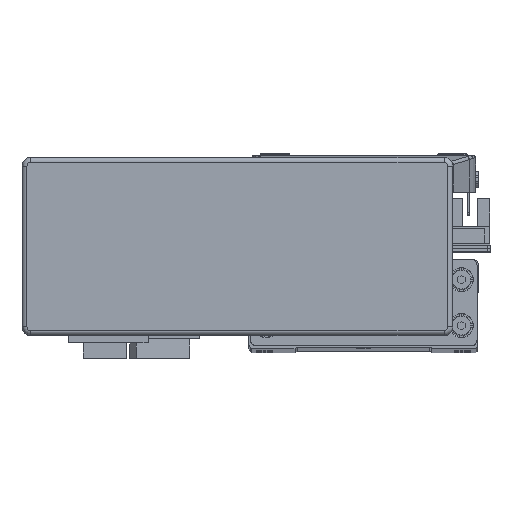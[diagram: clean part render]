
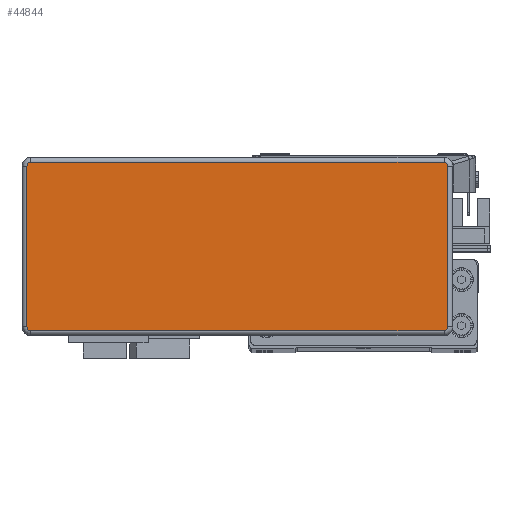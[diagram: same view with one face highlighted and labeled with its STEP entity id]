
A CAD part, top view. The second image highlights one B-rep face of the part: STEP entity #44844.
In plain terms, the highlighted planar face has unit normal (0, 0, 1) as drawn and (0, 0, -1) by its records, which use the part's own axes.
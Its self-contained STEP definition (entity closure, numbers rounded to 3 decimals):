
#9080 = AXIS2_PLACEMENT_3D ( 'NONE', #39972, #39973, #39935 ) ;
#9085 = AXIS2_PLACEMENT_3D ( 'NONE', #39925, #39905, #39888 ) ;
#9092 = AXIS2_PLACEMENT_3D ( 'NONE', #40016, #40051, #40015 ) ;
#9104 = AXIS2_PLACEMENT_3D ( 'NONE', #39959, #39951, #39931 ) ;
#12402 = CARTESIAN_POINT ( 'NONE',  ( -73.295, -27.995, -32.2 ) ) ;
#12414 = CARTESIAN_POINT ( 'NONE',  ( 71.995, -29.295, -32.2 ) ) ;
#12421 = CARTESIAN_POINT ( 'NONE',  ( -71.995, 29.295, -32.2 ) ) ;
#12422 = CARTESIAN_POINT ( 'NONE',  ( 73.295, 27.995, -32.2 ) ) ;
#12430 = CARTESIAN_POINT ( 'NONE',  ( 73.295, -27.995, -32.2 ) ) ;
#12470 = CARTESIAN_POINT ( 'NONE',  ( -71.995, -29.295, -32.2 ) ) ;
#12489 = CARTESIAN_POINT ( 'NONE',  ( 71.995, 29.295, -32.2 ) ) ;
#12502 = CARTESIAN_POINT ( 'NONE',  ( -73.295, 27.995, -32.2 ) ) ;
#12570 = VECTOR ( 'NONE', #39887, 1000. ) ;
#12572 = CIRCLE ( 'NONE', #9085, 1.3 ) ;
#12600 = CIRCLE ( 'NONE', #9104, 1.3 ) ;
#12617 = LINE ( 'NONE', #39900, #12570 ) ;
#12683 = LINE ( 'NONE', #39902, #12714 ) ;
#12714 = VECTOR ( 'NONE', #39963, 1000. ) ;
#13139 = CIRCLE ( 'NONE', #9080, 1.3 ) ;
#13340 = LINE ( 'NONE', #39979, #13489 ) ;
#13489 = VECTOR ( 'NONE', #39990, 1000. ) ;
#14747 = EDGE_LOOP ( 'NONE', ( #35320, #35306, #35305, #35292, #35323, #35302, #35316, #35226 ) ) ;
#17928 = VERTEX_POINT ( 'NONE', #12414 ) ;
#17931 = VERTEX_POINT ( 'NONE', #12430 ) ;
#17943 = VERTEX_POINT ( 'NONE', #12421 ) ;
#17947 = VERTEX_POINT ( 'NONE', #12402 ) ;
#17948 = VERTEX_POINT ( 'NONE', #12422 ) ;
#17984 = VERTEX_POINT ( 'NONE', #12502 ) ;
#17986 = VERTEX_POINT ( 'NONE', #12489 ) ;
#17987 = VERTEX_POINT ( 'NONE', #12470 ) ;
#21694 = EDGE_CURVE ( 'NONE', #17948, #17931, #12617, .T. ) ;
#21696 = EDGE_CURVE ( 'NONE', #17931, #17928, #12572, .T. ) ;
#21705 = EDGE_CURVE ( 'NONE', #17986, #17948, #12600, .T. ) ;
#21710 = EDGE_CURVE ( 'NONE', #17943, #17986, #12683, .T. ) ;
#21716 = EDGE_CURVE ( 'NONE', #17987, #17947, #13139, .T. ) ;
#21728 = EDGE_CURVE ( 'NONE', #17928, #17987, #13340, .T. ) ;
#21737 = EDGE_CURVE ( 'NONE', #17984, #17943, #41092, .T. ) ;
#21739 = EDGE_CURVE ( 'NONE', #17947, #17984, #41144, .T. ) ;
#30830 = PLANE ( 'NONE',  #33529 ) ;
#30833 = CARTESIAN_POINT ( 'NONE',  ( 71.995, -27.995, -32.2 ) ) ;
#30834 = DIRECTION ( 'NONE',  ( 0., 0., 1. ) ) ;
#30848 = DIRECTION ( 'NONE',  ( 1., 0., 0. ) ) ;
#33529 = AXIS2_PLACEMENT_3D ( 'NONE', #30833, #30834, #30848 ) ;
#33758 = FACE_OUTER_BOUND ( 'NONE', #14747, .T. ) ;
#35226 = ORIENTED_EDGE ( 'NONE', *, *, #21705, .T. ) ;
#35292 = ORIENTED_EDGE ( 'NONE', *, *, #21716, .T. ) ;
#35302 = ORIENTED_EDGE ( 'NONE', *, *, #21737, .T. ) ;
#35305 = ORIENTED_EDGE ( 'NONE', *, *, #21728, .T. ) ;
#35306 = ORIENTED_EDGE ( 'NONE', *, *, #21696, .T. ) ;
#35316 = ORIENTED_EDGE ( 'NONE', *, *, #21710, .T. ) ;
#35320 = ORIENTED_EDGE ( 'NONE', *, *, #21694, .T. ) ;
#35323 = ORIENTED_EDGE ( 'NONE', *, *, #21739, .T. ) ;
#39887 = DIRECTION ( 'NONE',  ( 0., -1., 0. ) ) ;
#39888 = DIRECTION ( 'NONE',  ( 1., 0., 0. ) ) ;
#39900 = CARTESIAN_POINT ( 'NONE',  ( 73.295, -27.995, -32.2 ) ) ;
#39902 = CARTESIAN_POINT ( 'NONE',  ( 71.995, 29.295, -32.2 ) ) ;
#39905 = DIRECTION ( 'NONE',  ( 0., 0., -1. ) ) ;
#39925 = CARTESIAN_POINT ( 'NONE',  ( 71.995, -27.995, -32.2 ) ) ;
#39931 = DIRECTION ( 'NONE',  ( 1., 0., 0. ) ) ;
#39935 = DIRECTION ( 'NONE',  ( 1., 0., 0. ) ) ;
#39951 = DIRECTION ( 'NONE',  ( 0., 0., -1. ) ) ;
#39959 = CARTESIAN_POINT ( 'NONE',  ( 71.995, 27.995, -32.2 ) ) ;
#39963 = DIRECTION ( 'NONE',  ( 1., 0., 0. ) ) ;
#39972 = CARTESIAN_POINT ( 'NONE',  ( -71.995, -27.995, -32.2 ) ) ;
#39973 = DIRECTION ( 'NONE',  ( 0., 0., -1. ) ) ;
#39979 = CARTESIAN_POINT ( 'NONE',  ( 71.995, -29.295, -32.2 ) ) ;
#39990 = DIRECTION ( 'NONE',  ( -1., 0., 0. ) ) ;
#40015 = DIRECTION ( 'NONE',  ( 1., 0., 0. ) ) ;
#40016 = CARTESIAN_POINT ( 'NONE',  ( -71.995, 27.995, -32.2 ) ) ;
#40030 = CARTESIAN_POINT ( 'NONE',  ( -73.295, -27.995, -32.2 ) ) ;
#40042 = DIRECTION ( 'NONE',  ( 0., 1., 0. ) ) ;
#40051 = DIRECTION ( 'NONE',  ( 0., 0., -1. ) ) ;
#41092 = CIRCLE ( 'NONE', #9092, 1.3 ) ;
#41131 = VECTOR ( 'NONE', #40042, 1000. ) ;
#41144 = LINE ( 'NONE', #40030, #41131 ) ;
#44844 = ADVANCED_FACE ( 'NONE', ( #33758 ), #30830, .F. ) ;
